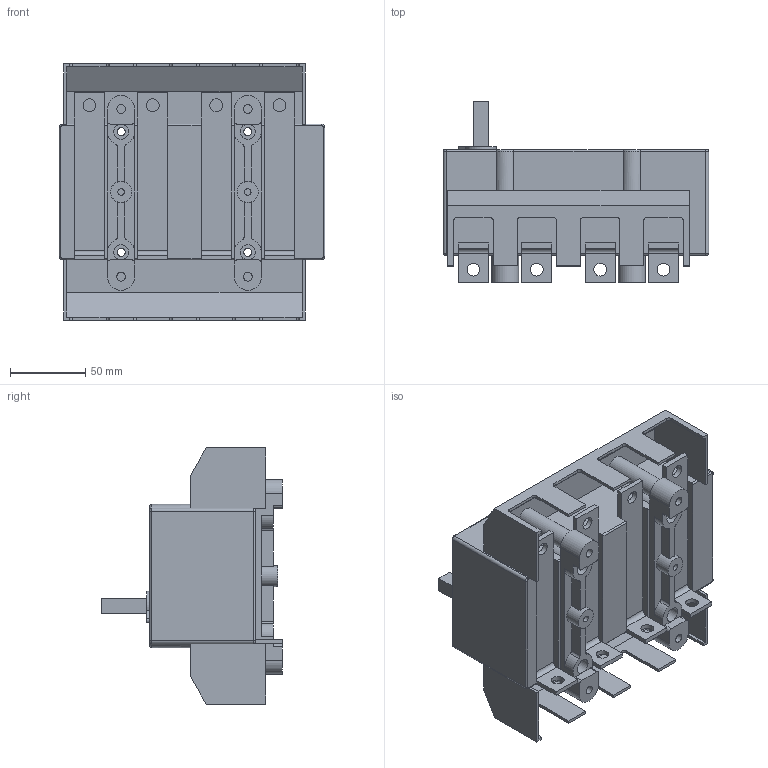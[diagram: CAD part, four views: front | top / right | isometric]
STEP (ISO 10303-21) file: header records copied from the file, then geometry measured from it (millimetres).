
FILE_DESCRIPTION(/* description */ (''),/* implementation_level */ '2;1');
FILE_NAME(/* name */ 'RA250 P3 NB z oslona zaciskow.stp',/* time_stamp */ '2021-08-18T08:22:19+02:00',/* author */ (''),/* organization */ (''),/* preprocessor_version */ 'ST-DEVELOPER v18.1',/* originating_system */ 'SIEMENS PLM Software NX 1965',/* authorisation */ '');
FILE_SCHEMA (('AUTOMOTIVE_DESIGN { 1 0 10303 214 3 1 1 1 }'));
Length unit declared in the file: millimetre
Products named in the file (1): RA250 P3 NB z oslona zaciskow_stp
Bounding box: 176 x 120 x 169.8 mm (x, y, z)
Volume: 1206354.9 mm3; surface area: 159258.5 mm2
Topology: 1 solids, 1 shells, 316 faces, 906 edges, 590 vertices
Faces by surface type: plane 178, cylinder 126, torus 7, bspline 5
Full cylindrical faces by diameter (mm): 4.3 x2, 5.3 x4, 5.8 x4, 8.5 x8, 10 x12, 13 x4, 14 x2
Entity records: 10179 total; most frequent: CARTESIAN_POINT 1888, DIRECTION 1732, ORIENTED_EDGE 1692, EDGE_CURVE 846, AXIS2_PLACEMENT_3D 590, VERTEX_POINT 566, LINE 552, VECTOR 552
